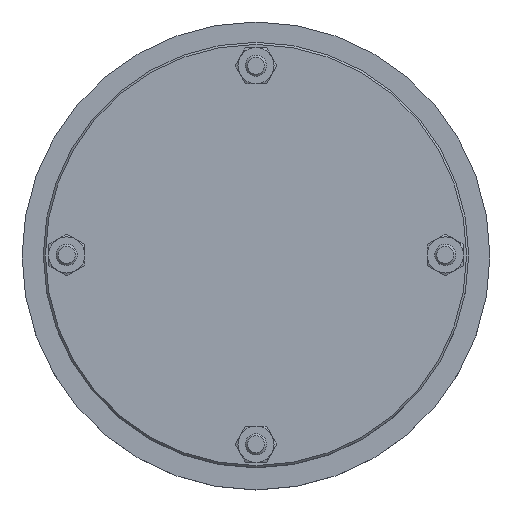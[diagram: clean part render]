
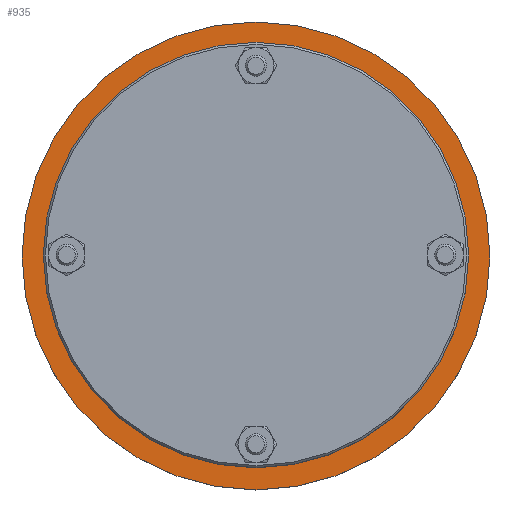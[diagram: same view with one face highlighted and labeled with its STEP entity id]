
A CAD part, top view. The second image highlights one B-rep face of the part: STEP entity #935.
In plain terms, the highlighted planar face has unit normal (0, 0, 1).
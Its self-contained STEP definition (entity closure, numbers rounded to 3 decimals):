
#935=ADVANCED_FACE('',(#3507,#3509,#3511,#3513,#3515,#3517,#3519,#3521,#3523,#3525),
#3527,.T.);
#3507=FACE_BOUND('',#3508,.T.);
#3508=EDGE_LOOP('',(#5523));
#3509=FACE_BOUND('',#3510,.T.);
#3510=EDGE_LOOP('',(#5524));
#3511=FACE_BOUND('',#3512,.T.);
#3512=EDGE_LOOP('',(#5525));
#3513=FACE_BOUND('',#3514,.T.);
#3514=EDGE_LOOP('',(#5526));
#3515=FACE_BOUND('',#3516,.T.);
#3516=EDGE_LOOP('',(#5527));
#3517=FACE_BOUND('',#3518,.T.);
#3518=EDGE_LOOP('',(#5528));
#3519=FACE_BOUND('',#3520,.T.);
#3520=EDGE_LOOP('',(#5529));
#3521=FACE_BOUND('',#3522,.T.);
#3522=EDGE_LOOP('',(#5530));
#3523=FACE_BOUND('',#3524,.T.);
#3524=EDGE_LOOP('',(#5531));
#3525=FACE_BOUND('',#3526,.T.);
#3526=EDGE_LOOP('',(#5532));
#3527=PLANE('',#3528);
#3528=AXIS2_PLACEMENT_3D('',#3529,#3530,#3531);
#3529=CARTESIAN_POINT('',(0.,0.,24.));
#3530=DIRECTION('',(0.,0.,1.));
#3531=DIRECTION('',(1.,0.,0.));
#5523=ORIENTED_EDGE('',*,*,#6585,.T.);
#5524=ORIENTED_EDGE('',*,*,#6559,.F.);
#5525=ORIENTED_EDGE('',*,*,#6586,.T.);
#5526=ORIENTED_EDGE('',*,*,#6587,.T.);
#5527=ORIENTED_EDGE('',*,*,#6588,.T.);
#5528=ORIENTED_EDGE('',*,*,#6589,.T.);
#5529=ORIENTED_EDGE('',*,*,#6590,.T.);
#5530=ORIENTED_EDGE('',*,*,#6591,.T.);
#5531=ORIENTED_EDGE('',*,*,#6592,.T.);
#5532=ORIENTED_EDGE('',*,*,#6593,.T.);
#6559=EDGE_CURVE('',#7319,#7319,#7320,.T.);
#6585=EDGE_CURVE('',#7347,#7347,#7348,.T.);
#6586=EDGE_CURVE('',#7349,#7349,#7350,.T.);
#6587=EDGE_CURVE('',#7351,#7351,#7352,.T.);
#6588=EDGE_CURVE('',#7353,#7353,#7354,.T.);
#6589=EDGE_CURVE('',#7355,#7355,#7356,.T.);
#6590=EDGE_CURVE('',#7357,#7357,#7358,.T.);
#6591=EDGE_CURVE('',#7359,#7359,#7360,.T.);
#6592=EDGE_CURVE('',#7361,#7361,#7362,.T.);
#6593=EDGE_CURVE('',#7363,#7363,#7364,.T.);
#7319=VERTEX_POINT('',#11372);
#7320=CIRCLE('',#11373,73.);
#7347=VERTEX_POINT('',#11478);
#7348=CIRCLE('',#11479,110.);
#7349=VERTEX_POINT('',#11483);
#7350=CIRCLE('',#11484,9.);
#7351=VERTEX_POINT('',#11488);
#7352=CIRCLE('',#11489,9.);
#7353=VERTEX_POINT('',#11493);
#7354=CIRCLE('',#11494,9.);
#7355=VERTEX_POINT('',#11498);
#7356=CIRCLE('',#11499,9.);
#7357=VERTEX_POINT('',#11503);
#7358=CIRCLE('',#11504,9.);
#7359=VERTEX_POINT('',#11508);
#7360=CIRCLE('',#11509,9.);
#7361=VERTEX_POINT('',#11513);
#7362=CIRCLE('',#11514,9.);
#7363=VERTEX_POINT('',#11518);
#7364=CIRCLE('',#11519,9.);
#11372=CARTESIAN_POINT('',(73.,0.,24.));
#11373=AXIS2_PLACEMENT_3D('',#11374,#11375,#11376);
#11374=CARTESIAN_POINT('',(0.,0.,24.));
#11375=DIRECTION('',(0.,0.,1.));
#11376=DIRECTION('',(1.,0.,0.));
#11478=CARTESIAN_POINT('',(110.,0.,24.));
#11479=AXIS2_PLACEMENT_3D('',#11480,#11481,#11482);
#11480=CARTESIAN_POINT('',(0.,0.,24.));
#11481=DIRECTION('',(0.,0.,1.));
#11482=DIRECTION('',(1.,0.,0.));
#11483=CARTESIAN_POINT('',(43.442,-83.149,24.));
#11484=AXIS2_PLACEMENT_3D('',#11485,#11486,#11487);
#11485=CARTESIAN_POINT('',(34.442,-83.149,24.));
#11486=DIRECTION('',(0.,0.,-1.));
#11487=DIRECTION('',(1.,0.,0.));
#11488=CARTESIAN_POINT('',(-28.078,-89.513,24.));
#11489=AXIS2_PLACEMENT_3D('',#11490,#11491,#11492);
#11490=CARTESIAN_POINT('',(-34.442,-83.149,24.));
#11491=DIRECTION('',(0.,0.,-1.));
#11492=DIRECTION('',(0.707,-0.707,0.));
#11493=CARTESIAN_POINT('',(-83.149,-43.442,24.));
#11494=AXIS2_PLACEMENT_3D('',#11495,#11496,#11497);
#11495=CARTESIAN_POINT('',(-83.149,-34.442,24.));
#11496=DIRECTION('',(0.,0.,-1.));
#11497=DIRECTION('',(0.,-1.,0.));
#11498=CARTESIAN_POINT('',(-89.513,28.078,24.));
#11499=AXIS2_PLACEMENT_3D('',#11500,#11501,#11502);
#11500=CARTESIAN_POINT('',(-83.149,34.442,24.));
#11501=DIRECTION('',(0.,0.,-1.));
#11502=DIRECTION('',(-0.707,-0.707,0.));
#11503=CARTESIAN_POINT('',(-43.442,83.149,24.));
#11504=AXIS2_PLACEMENT_3D('',#11505,#11506,#11507);
#11505=CARTESIAN_POINT('',(-34.442,83.149,24.));
#11506=DIRECTION('',(0.,0.,-1.));
#11507=DIRECTION('',(-1.,0.,0.));
#11508=CARTESIAN_POINT('',(28.078,89.513,24.));
#11509=AXIS2_PLACEMENT_3D('',#11510,#11511,#11512);
#11510=CARTESIAN_POINT('',(34.442,83.149,24.));
#11511=DIRECTION('',(0.,0.,-1.));
#11512=DIRECTION('',(-0.707,0.707,0.));
#11513=CARTESIAN_POINT('',(83.149,43.442,24.));
#11514=AXIS2_PLACEMENT_3D('',#11515,#11516,#11517);
#11515=CARTESIAN_POINT('',(83.149,34.442,24.));
#11516=DIRECTION('',(0.,0.,-1.));
#11517=DIRECTION('',(0.,1.,0.));
#11518=CARTESIAN_POINT('',(89.513,-28.078,24.));
#11519=AXIS2_PLACEMENT_3D('',#11520,#11521,#11522);
#11520=CARTESIAN_POINT('',(83.149,-34.442,24.));
#11521=DIRECTION('',(0.,0.,-1.));
#11522=DIRECTION('',(0.707,0.707,0.));
